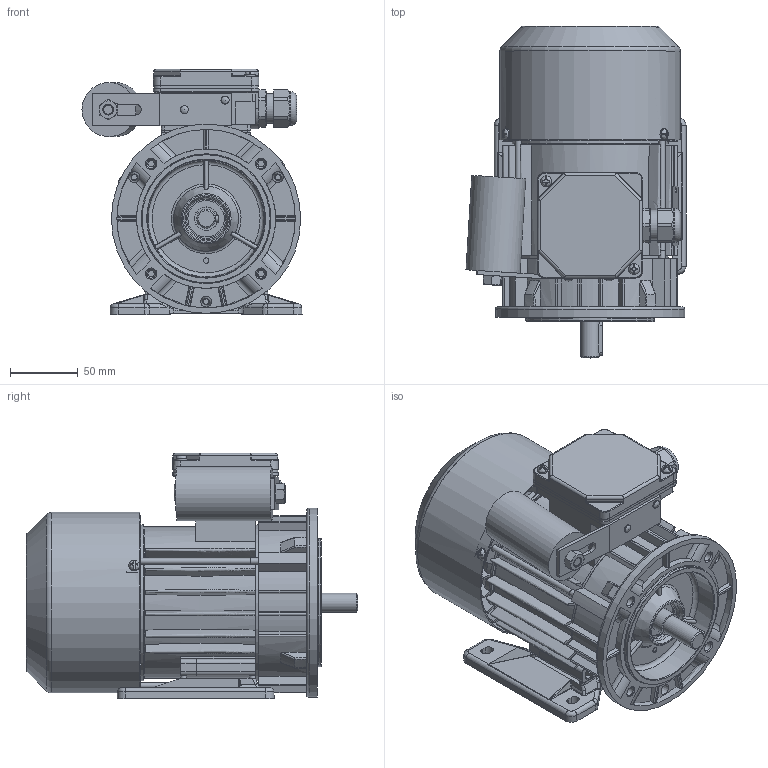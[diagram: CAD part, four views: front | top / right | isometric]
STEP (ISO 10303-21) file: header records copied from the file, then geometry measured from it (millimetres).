
FILE_DESCRIPTION( ( 'Unknown' ), '1' );
FILE_NAME( 'G:/Poczta Tk-1/STP/w.m.71/SEh71/SELh71-.B1.stp', 'Unknown', ( 'K. Szlosek' ), ( 'BESEL S.A.' ), 'PSStep 17.0.49', 'Unknown', ' ' );
FILE_SCHEMA( ( 'AUTOMOTIVE_DESIGN { 1 0 10303 214 1 1 1 1 }' ) );
Length unit declared in the file: millimetre
Products named in the file (34): Assem1; K4-2820 Uszczelka nr 2 Sh71,80; Wkręt samogwintujący M4x16; K3-6469 Tarcza łożyskowa P S(E,M)h71-B,C; Wpust A5x5x25; Wkręt samogwintujący M4x8; K2-1131 Podstawa skrzynki zaciskowej jednofazowa; Nit 4x12 po skróceniu; K4-2999 Uchwyt kondensatora; nakrętka M8; K1-1194 Kadłub z zamkami Sh71-.B; Kondensator zb 11-16uF Comar; K3-3984 Przewietrznik Sh71; K4-2320 Uszczelka nr 1 Sh71,80; K3-2975 Osłona przewietrznika Sh71-.B,C; K2-0860 Pokrywka skrzynki zaciskowej; K3-4502 wał standard Sh71-B; Nitokołek A 2x6; Łożysko 6203; Śruba ściągająca E_M5x110; Tabliczka znamionowa 32x44; Dławnica M20x1,5; K4-0898 Tulejka uszczelniająca; K1-1246 Tarcza kołnierzowa B14_1 w.m. 71; K1-0448 Łapa Sh71-.. 
Assembly tree (50 placements, depth 2):
  Assem1
    K4-2820 Uszczelka nr 2 Sh71,80
    Wkręt samogwintujący M4x16  x2
    K3-6469 Tarcza łożyskowa P S(E,M)h71-B,C
    Wpust A5x5x25
    Wkręt samogwintujący M4x8  x3
    K2-1131 Podstawa skrzynki zaciskowej jednofazowa
    Nit 4x12 po skróceniu  x2
    K4-2999 Uchwyt kondensatora
    nakrętka M8
    K1-1194 Kadłub z zamkami Sh71-.B
    Kondensator zb 11-16uF Comar
    K3-3984 Przewietrznik Sh71
    K4-2320 Uszczelka nr 1 Sh71,80
    K3-2975 Osłona przewietrznika Sh71-.B,C
    K2-0860 Pokrywka skrzynki zaciskowej
    K3-4502 wał standard Sh71-B
    Nitokołek A 2x6  x2
    Łożysko 6203  x2
    Łożysko 6203  x2
    Łożysko 6203  x2
    Łożysko 6203  x2
    Łożysko 6203  x2
    Łożysko 6203  x2
    Łożysko 6203  x2
    Łożysko 6203  x2
    Łożysko 6203  x2
    Łożysko 6203  x2
    Śruba ściągająca E_M5x110  x3
    Tabliczka znamionowa 32x44
    Dławnica M20x1,5
    K4-0898 Tulejka uszczelniająca
    K1-1246 Tarcza kołnierzowa B14_1 w.m. 71
    K1-0448 Łapa Sh71-.. 
Bounding box: 162.77 x 245.5 x 181.5 mm (x, y, z)
Volume: 843521.5 mm3; surface area: 489811.2 mm2
Topology: 50 solids, 66 shells, 2766 faces, 7480 edges, 4792 vertices
Faces by surface type: plane 1124, cylinder 801, bspline 391, torus 205, cone 193, sphere 52
Full cylindrical faces by diameter (mm): 2 x2, 2.4 x2, 3 x1, 3.7 x7, 3.8 x4, 4 x8, 4.134 x3, 4.3 x2, 4.5 x3, 4.6 x3, 4.8 x4, 5 x7, 5.5 x3, 5.8 x4, 6 x2, 6.5 x1, 6.647 x1, 6.8 x4, 7 x1, 8 x10, 10 x2, 14 x1, 15.9 x1, 16.1 x1, 16.5 x1, 17 x4, 17.4 x2, 18.376 x1, 18.38 x1, 20 x1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
Entity records: 158885 total; most frequent: CARTESIAN_POINT 75940, ORIENTED_EDGE 13370, DIRECTION 12003, EDGE_CURVE 6685, AXIS2_PLACEMENT_3D 4592, VERTEX_POINT 4447, EDGE_LOOP 3068, LINE 2819
